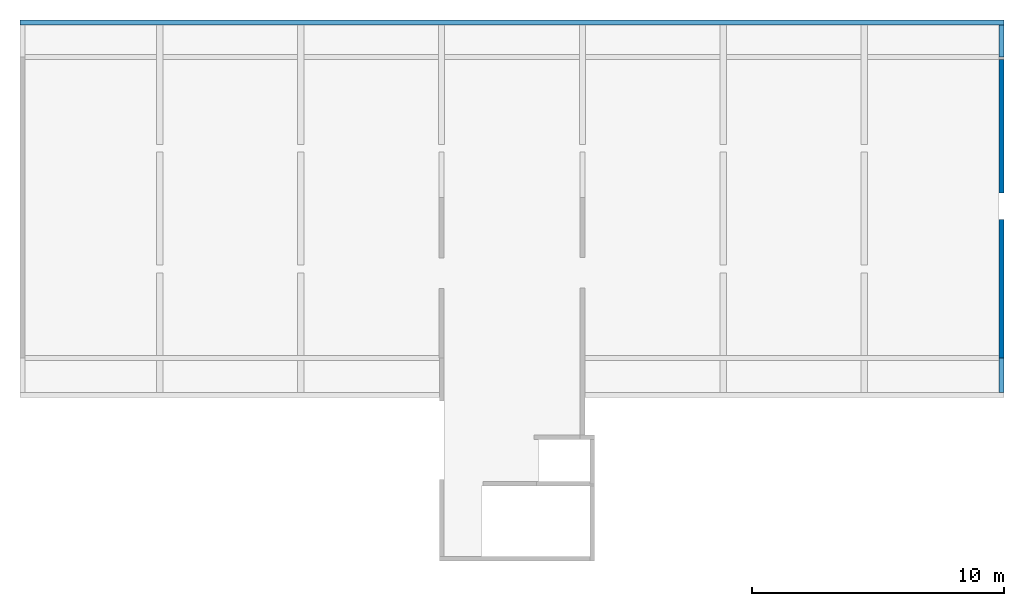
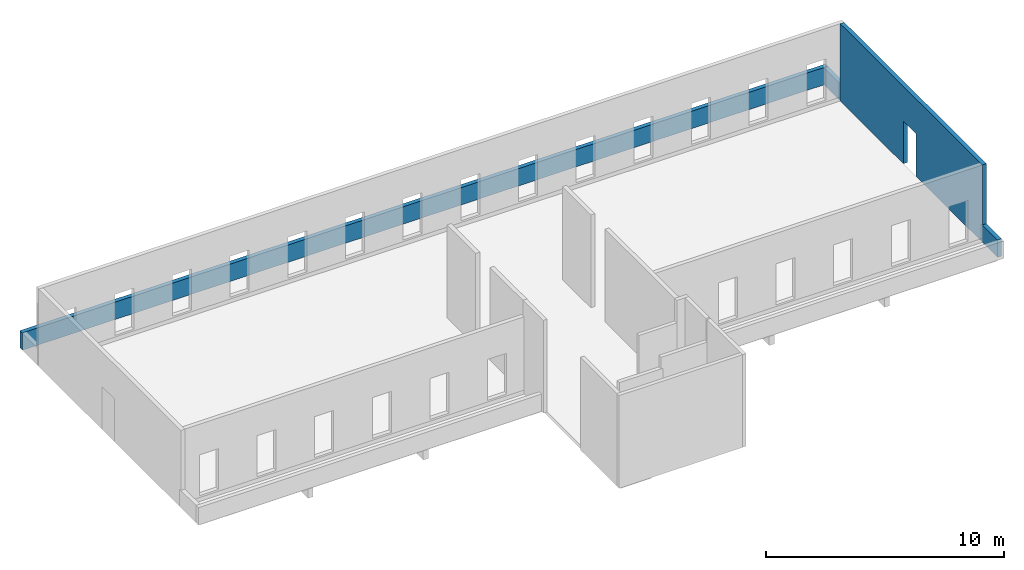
# One storey, part 2 of 3: 4 walls, 1 opening.
"""IFC2X3 building model written with IfcOpenShell, lengths in metres."""

import ifcopenshell
import ifcopenshell.guid

model = None  # the IFC model being written
_history = None  # IfcOwnerHistory: only IFC2X3 demands one
_inside = {}  # id of a spatial element -> (the spatial element, [elements in it])
_under = {}  # id of a project, library or spatial element -> (it, [spatial elements below it])
_declared = {}  # id of a project -> (the project, [libraries it declares])
_typed = {}  # id of a type object -> (the type object, [elements of that type])
_made_of = {}  # id of a material, layer set ... -> (it, [elements and type objects made of it])


def new_model(schema):
    """Start an empty IFC model of exactly this schema.

    Asked for "IFC4X3", IfcOpenShell would pick the latest addendum, in which some entities
    have other attributes; the version numbers below select the first issue.
    IFC2X3 requires an IfcOwnerHistory on every rooted entity: one is made here for all.
    """
    global model, _history
    if schema == "IFC4X3":
        model = ifcopenshell.file(schema_version=(4, 3, 0, 0))
    else:
        model = ifcopenshell.file(schema=schema)
    _inside.clear()
    _under.clear()
    _declared.clear()
    _typed.clear()
    _made_of.clear()
    _history = None
    if model.schema == "IFC2X3":
        org = make("IfcOrganization", Name="unknown")
        user = make(
            "IfcPersonAndOrganization",
            ThePerson=make("IfcPerson", FamilyName="unknown"),
            TheOrganization=org,
        )
        app = make(
            "IfcApplication",
            ApplicationDeveloper=org,
            Version="unknown",
            ApplicationFullName="unknown",
            ApplicationIdentifier="unknown",
        )
        _history = make(
            "IfcOwnerHistory",
            OwningUser=user,
            OwningApplication=app,
            ChangeAction="ADDED",
            CreationDate=0,
        )
    return model


def make(cls, **values):
    """One entity of the class cls with the attributes given. An attribute that is None is left unset."""
    return model.create_entity(
        cls, **{name: value for name, value in values.items() if value is not None}
    )


def entity(cls, *values):
    """Any entity or typed value of the class cls, its attributes in the order of the schema. None: left unset."""
    e = model.create_entity(cls)
    for i, value in enumerate(values):
        if value is not None:
            e[i] = value
    return e


def rooted(cls, **values):
    """An entity with a GlobalId (a new one), such as an element, a storey or a relation."""
    return make(cls, GlobalId=ifcopenshell.guid.new(), OwnerHistory=_history, **values)


def si_unit(unit_type, name, prefix=None):
    """IfcSIUnit, for example si_unit("LENGTHUNIT", "METRE", prefix="MILLI")."""
    return make("IfcSIUnit", UnitType=unit_type, Prefix=prefix, Name=name)


def converted_unit(unit_type, name, factor, base, dimensions=None, offset=None):
    """IfcConversionBasedUnit, such as the inch: factor (a typed value) times the base unit."""
    return make(
        "IfcConversionBasedUnit"
        if offset is None
        else "IfcConversionBasedUnitWithOffset",
        ConversionOffset=offset,
        Dimensions=None
        if dimensions is None
        else entity("IfcDimensionalExponents", *dimensions),
        UnitType=unit_type,
        Name=name,
        ConversionFactor=make(
            "IfcMeasureWithUnit", ValueComponent=factor, UnitComponent=base
        ),
    )


def derived_unit(unit_type, elements):
    """IfcDerivedUnit: a product of units, each with its exponent."""
    return make(
        "IfcDerivedUnit",
        Elements=[
            make("IfcDerivedUnitElement", Unit=unit, Exponent=power)
            for unit, power in elements
        ],
        UnitType=unit_type,
    )


def assignment(units):
    """IfcUnitAssignment: the units of a project."""
    return None if units is None else make("IfcUnitAssignment", Units=units)


def point(xyz):
    """IfcCartesianPoint."""
    return None if xyz is None else make("IfcCartesianPoint", Coordinates=xyz)


def direction(xyz):
    """IfcDirection."""
    return None if xyz is None else make("IfcDirection", DirectionRatios=xyz)


def frame(location, z_axis=None, x_axis=None):
    """IfcAxis2Placement3D, a coordinate frame: its origin and axes. An axis left out is left unset."""
    return make(
        "IfcAxis2Placement3D",
        Location=point(location),
        Axis=direction(z_axis),
        RefDirection=direction(x_axis),
    )


def frame_2d(location, x_axis=None):
    """IfcAxis2Placement2D, a coordinate frame in the plane: its origin and x axis."""
    return make(
        "IfcAxis2Placement2D", Location=point(location), RefDirection=direction(x_axis)
    )


def origin():
    """The frame at (0, 0, 0) with its axes left unset."""
    return frame((0.0, 0.0, 0.0))


def origin_2d_with_axis():
    """The frame at (0, 0) in the plane with the x axis (1, 0) written out."""
    return frame_2d((0.0, 0.0), x_axis=(1.0, 0.0))


def place(relative_to, where):
    """IfcLocalPlacement: puts the frame where relative to a parent placement (None: the world)."""
    return make(
        "IfcLocalPlacement", PlacementRelTo=relative_to, RelativePlacement=where
    )


def context(
    kind, dimensions, precision=None, world=None, true_north=None, identifier=None
):
    """IfcGeometricRepresentationContext, for example the 3D "Model" context."""
    return make(
        "IfcGeometricRepresentationContext",
        ContextIdentifier=identifier,
        ContextType=kind,
        CoordinateSpaceDimension=dimensions,
        Precision=precision,
        WorldCoordinateSystem=world,
        TrueNorth=true_north,
    )


def subcontext(parent, identifier, kind, view, scale=None):
    """IfcGeometricRepresentationSubContext, for example "Body" below "Model"."""
    return make(
        "IfcGeometricRepresentationSubContext",
        ContextIdentifier=identifier,
        ContextType=kind,
        ParentContext=parent,
        TargetScale=scale,
        TargetView=view,
    )


def project(units=None, contexts=None):
    """IfcProject with its units and contexts."""
    return rooted(
        "IfcProject",
        Name="project",
        RepresentationContexts=contexts,
        UnitsInContext=assignment(units),
    )


def spatial(cls, under=None, at=None, **own):
    """A site, building, storey or space (cls), placed at a placement, below another one or the project."""
    s = rooted(cls, ObjectPlacement=at, **own)
    if under is not None:
        _under.setdefault(under.id(), (under, []))[1].append(s)
    return s


def profile(cls, at=None, kind="AREA", **sizes):
    """A parametric profile (cls). Its sizes go by their IFC names, for example OverallWidth=200.0."""
    return make(cls, ProfileType=kind, Position=at, **sizes)


def rectangle(**sizes):
    """IfcRectangleProfileDef."""
    return profile("IfcRectangleProfileDef", **sizes)


def extrude(swept, where, along, depth):
    """IfcExtrudedAreaSolid: the profile swept, set in the frame where, extruded along a direction by depth."""
    return make(
        "IfcExtrudedAreaSolid",
        SweptArea=swept,
        Position=where,
        ExtrudedDirection=direction(along),
        Depth=depth,
    )


def shape(context_of_items, identifier, shape_type, items):
    """IfcShapeRepresentation: the items that make up one representation, for example the "Body"."""
    return make(
        "IfcShapeRepresentation",
        ContextOfItems=context_of_items,
        RepresentationIdentifier=identifier,
        RepresentationType=shape_type,
        Items=items,
    )


def material(Name=None, Category=None):
    """IfcMaterial."""
    return make("IfcMaterial", Name=Name, Category=Category)


def layer(
    of_material, thickness, ventilated=None, Name=None, Category=None, Priority=None
):
    """IfcMaterialLayer: one layer of a wall or slab, of a material (None: an air gap)."""
    return make(
        "IfcMaterialLayer",
        Material=of_material,
        LayerThickness=thickness,
        IsVentilated=ventilated,
        Name=Name,
        Category=Category,
        Priority=Priority,
    )


def layer_set(layers, Name=None):
    """IfcMaterialLayerSet."""
    return make("IfcMaterialLayerSet", MaterialLayers=layers, LayerSetName=Name)


def layer_usage(for_layer_set, set_direction, sense, offset, extent=None):
    """IfcMaterialLayerSetUsage: how a layer set lies in its element."""
    return make(
        "IfcMaterialLayerSetUsage",
        ForLayerSet=for_layer_set,
        LayerSetDirection=set_direction,
        DirectionSense=sense,
        OffsetFromReferenceLine=offset,
        ReferenceExtent=extent,
    )


def made_of(thing, what):
    """Note that an element or type object is made of a material, layer set ...; save() writes the relation."""
    if what is not None:
        _made_of.setdefault(what.id(), (what, []))[1].append(thing)
    return thing


def type_object(cls, material=None, **own):
    """A type object (cls), such as IfcWallType, which elements share."""
    return made_of(rooted(cls, **own), material)


def element(
    cls,
    number,
    at=None,
    inside=None,
    cuts=None,
    type_object=None,
    material=None,
    context=None,
    identifier="Body",
    shape_type=None,
    held_by="IfcProductDefinitionShape",
    body=None,
    shapes=None,
    **own,
):
    """One element of the class cls, such as IfcWall. Its Tag is "e" and its number.

    at: its placement. inside: the storey or other place that contains it. cuts: it is an
    opening in that element (IfcRelVoidsElement). A single representation is given by context,
    identifier, shape_type and body (its items); several are given by shapes. held_by: the class
    of the entity that holds the representations. save() writes the other relations.
    """
    e = rooted(cls, Tag="e%d" % number, ObjectPlacement=at, **own)
    if body is not None:
        shapes = [shape(context, identifier, shape_type, body)]
    if shapes is not None:
        e.Representation = make(held_by, Representations=shapes)
    if inside is not None:
        _inside.setdefault(inside.id(), (inside, []))[1].append(e)
    if cuts is not None:
        rooted(
            "IfcRelVoidsElement", RelatingBuildingElement=cuts, RelatedOpeningElement=e
        )
    if type_object is not None:
        _typed.setdefault(type_object.id(), (type_object, []))[1].append(e)
    return made_of(e, material)


def aggregate(whole, parts):
    """IfcRelAggregates: a whole, such as a stair, and the parts it consists of."""
    return rooted("IfcRelAggregates", RelatingObject=whole, RelatedObjects=parts)


def save(model, path):
    """Write the relations noted so far, then the file.

    IfcRelAggregates (storeys below a building ...), IfcRelContainedInSpatialStructure (elements
    in a storey), IfcRelDefinesByType, IfcRelAssociatesMaterial and IfcRelDeclares: one each for
    every whole, place, type object, material and project.
    """
    for whole, parts in _under.values():
        aggregate(whole, parts)
    for where, things in _inside.values():
        rooted(
            "IfcRelContainedInSpatialStructure",
            RelatedElements=things,
            RelatingStructure=where,
        )
    for kind, things in _typed.values():
        rooted("IfcRelDefinesByType", RelatedObjects=things, RelatingType=kind)
    for what, things in _made_of.values():
        rooted("IfcRelAssociatesMaterial", RelatedObjects=things, RelatingMaterial=what)
    for by, libraries in _declared.values():
        rooted("IfcRelDeclares", RelatingContext=by, RelatedDefinitions=libraries)
    model.write(path)


model = new_model("IFC2X3")

# Units and contexts
model_context = context("Model", 3, precision=1e-05, world=origin(), true_north=direction((6.12303176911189e-17, 1.0)))
context_of_model = context(None, 3, precision=1e-05, world=origin(), true_north=direction((6.12303176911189e-17, 1.0)))
body_context = subcontext(model_context, "Body", "Model", "MODEL_VIEW")
ifc_project = project(units=[si_unit("LENGTHUNIT", "METRE"), si_unit("AREAUNIT", "SQUARE_METRE"), si_unit("VOLUMEUNIT", "CUBIC_METRE"), converted_unit("PLANEANGLEUNIT", "DEGREE", entity("IfcRatioMeasure", 0.0174532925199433), si_unit("PLANEANGLEUNIT", "RADIAN"), dimensions=[0, 0, 0, 0, 0, 0, 0]), si_unit("MASSUNIT", "GRAM", prefix="KILO"), si_unit("TIMEUNIT", "SECOND"), si_unit("FREQUENCYUNIT", "HERTZ"), si_unit("THERMODYNAMICTEMPERATUREUNIT", "DEGREE_CELSIUS"), derived_unit("THERMALTRANSMITTANCEUNIT", [(si_unit("MASSUNIT", "GRAM", prefix="KILO"), 1), (si_unit("THERMODYNAMICTEMPERATUREUNIT", "KELVIN"), -1), (si_unit("TIMEUNIT", "SECOND"), -3)]), derived_unit("VOLUMETRICFLOWRATEUNIT", [(si_unit("LENGTHUNIT", "METRE"), 3), (si_unit("TIMEUNIT", "SECOND"), -1)]), si_unit("ELECTRICCURRENTUNIT", "AMPERE"), si_unit("ELECTRICVOLTAGEUNIT", "VOLT"), si_unit("POWERUNIT", "WATT"), si_unit("FORCEUNIT", "NEWTON"), si_unit("ILLUMINANCEUNIT", "LUX"), si_unit("LUMINOUSFLUXUNIT", "LUMEN"), si_unit("LUMINOUSINTENSITYUNIT", "CANDELA"), si_unit("PRESSUREUNIT", "PASCAL")], contexts=[model_context, context_of_model])

# Site, building, storey
site_placement = place(None, origin())
site = spatial("IfcSite", under=ifc_project, at=site_placement, Name="Default", CompositionType="ELEMENT")
building_placement = place(site_placement, origin())
building = spatial("IfcBuilding", under=site, at=building_placement, Name="BATIMENT 1", CompositionType="ELEMENT")
storey_placement = place(building_placement, frame((0.0, 0.0, 7.03999999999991)))
storey = spatial("IfcBuildingStorey", under=building, at=storey_placement, Name="Niveau 2", CompositionType="ELEMENT", Elevation=7.03999999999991)

# Wall
ifc_material = material(Name="AEC Béton, C25/30")
ifc_layer = layer(ifc_material, 0.2)
ifc_layer_set = layer_set([ifc_layer], Name="Mur de base:BG VOILE BA 0.20 C25/30")
ifc_layer_usage_1 = layer_usage(ifc_layer_set, "AXIS2", "NEGATIVE", 0.1)
wall_type = type_object("IfcWallType", Name="Mur de base:BG VOILE BA 0.20 C25/30", PredefinedType="STANDARD", material=ifc_layer_set)
wall_1_placement = place(storey_placement, frame((-19.7641655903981, 8.482537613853, 0.0)))
element("IfcWallStandardCase", 1, at=wall_1_placement, inside=storey, type_object=wall_type, material=ifc_layer_usage_1, Name="Mur de base:BG VOILE BA 0.20 C25/30", ObjectType="Mur de base:BG VOILE BA 0.20 C25/30", context=body_context, shape_type="SweptSolid", body=[
    extrude(rectangle(XDim=39.12, YDim=0.2, at=frame_2d((19.56, 3.19189119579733e-16), x_axis=(-1.0, 0.0))), origin(), (0.0, 0.0, 1.0), 0.890000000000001),
])

# Wall, opening
ifc_layer_usage_2 = layer_usage(ifc_layer_set, "AXIS2", "NEGATIVE", 0.1)
wall_2_placement = place(storey_placement, frame((19.2563469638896, 7.11253761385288, 0.0), z_axis=(0.0, 0.0, 1.0), x_axis=(0.0, -1.0, 0.0)))
wall_2 = element("IfcWallStandardCase", 2, at=wall_2_placement, inside=storey, type_object=wall_type, material=ifc_layer_usage_2, Name="Mur de base:BG VOILE BA 0.20 C25/30", ObjectType="Mur de base:BG VOILE BA 0.20 C25/30", context=body_context, shape_type="SweptSolid", body=[
    extrude(rectangle(XDim=11.96, YDim=0.2, at=frame_2d((6.08, -3.46944695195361e-16), x_axis=(1.0, 0.0))), origin(), (0.0, 0.0, 1.0), 3.97000000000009),
])
opening_placement = place(wall_2_placement, origin())
element("IfcOpeningElement", 3, at=opening_placement, cuts=wall_2, Name="Mur de base:BG VOILE BA 0.20 C25/30", ObjectType="Opening", context=body_context, shape_type="SweptSolid", body=[
    extrude(rectangle(XDim=2.2, YDim=1.05, at=origin_2d_with_axis()), frame((5.94, -0.0999999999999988, 1.1), z_axis=(0.0, 1.0, 0.0), x_axis=(0.0, 0.0, -1.0)), (0.0, 0.0, 1.0), 0.199999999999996),
])

# Walls
ifc_layer_usage_3 = layer_usage(ifc_layer_set, "AXIS2", "NEGATIVE", 0.1)
wall_3_placement = place(storey_placement, frame((19.2558344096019, 8.38253761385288, 0.0), z_axis=(0.0, 0.0, 1.0), x_axis=(0.0, -1.0, 0.0)))
element("IfcWallStandardCase", 4, at=wall_3_placement, inside=storey, type_object=wall_type, material=ifc_layer_usage_3, Name="Mur de base:BG VOILE BA 0.20 C25/30", ObjectType="Mur de base:BG VOILE BA 0.20 C25/30", context=body_context, shape_type="SweptSolid", body=[
    extrude(rectangle(XDim=1.27, YDim=0.199999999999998, at=frame_2d((0.635000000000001, -5.759281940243e-16), x_axis=(-1.0, 0.0))), origin(), (0.0, 0.0, 1.0), 0.890000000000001),
])
ifc_layer_usage_4 = layer_usage(ifc_layer_set, "AXIS2", "NEGATIVE", 0.1)
wall_4_placement = place(storey_placement, frame((19.2558344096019, -4.84746238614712, 0.0), z_axis=(0.0, 0.0, 1.0), x_axis=(0.0, -1.0, 0.0)))
element("IfcWallStandardCase", 5, at=wall_4_placement, inside=storey, type_object=wall_type, material=ifc_layer_usage_4, Name="Mur de base:BG VOILE BA 0.20 C25/30", ObjectType="Mur de base:BG VOILE BA 0.20 C25/30", context=body_context, shape_type="SweptSolid", body=[
    extrude(rectangle(XDim=1.37, YDim=0.2, at=frame_2d((0.685, -1.70002900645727e-15), x_axis=(-1.0, 0.0))), origin(), (0.0, 0.0, 1.0), 0.890000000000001),
])

save(model, "model.ifc")
